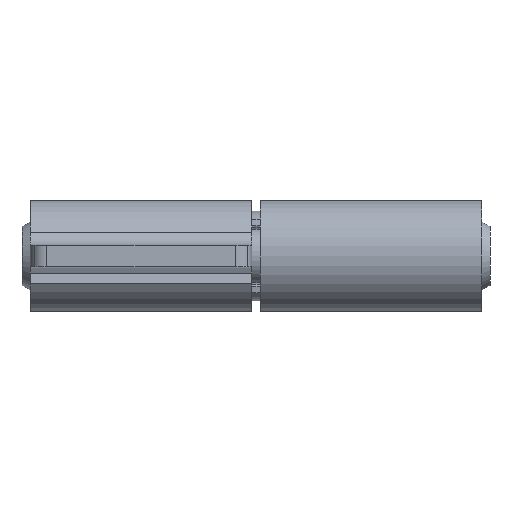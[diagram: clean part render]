
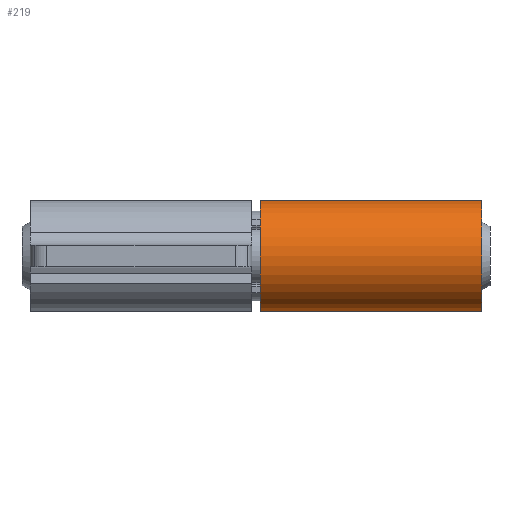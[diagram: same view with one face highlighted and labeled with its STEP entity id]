
A CAD part, front view. The second image highlights one B-rep face of the part: STEP entity #219.
In plain terms, the highlighted cylindrical face has radius 2.587 mm (diameter 5.175 mm), a partial arc.
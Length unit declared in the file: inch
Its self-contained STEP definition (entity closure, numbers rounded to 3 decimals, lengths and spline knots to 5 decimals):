
#219=ADVANCED_FACE('',(#452),#453,.T.);
#452=FACE_OUTER_BOUND('',#715,.T.);
#453=CYLINDRICAL_SURFACE('',#716,0.10187);
#715=EDGE_LOOP('',(#1238,#1239,#1240,#1241));
#716=AXIS2_PLACEMENT_3D('',#1242,#1243,#1244);
#1238=ORIENTED_EDGE('',*,*,#1719,.F.);
#1239=ORIENTED_EDGE('',*,*,#1720,.T.);
#1240=ORIENTED_EDGE('',*,*,#1721,.F.);
#1241=ORIENTED_EDGE('',*,*,#1506,.T.);
#1242=CARTESIAN_POINT('',(-1.35657,-4.5,0.));
#1243=DIRECTION('',(1.0,0.,0.));
#1244=DIRECTION('',(0.,0.,1.0));
#1506=EDGE_CURVE('',#1781,#1779,#1782,.T.);
#1719=EDGE_CURVE('',#2112,#1779,#2113,.T.);
#1720=EDGE_CURVE('',#2112,#2114,#2115,.T.);
#1721=EDGE_CURVE('',#1781,#2114,#2116,.T.);
#1779=VERTEX_POINT('',#2179);
#1781=VERTEX_POINT('',#2181);
#1782=CIRCLE('',#2182,0.10187);
#2112=VERTEX_POINT('',#2592);
#2113=LINE('',#2593,#2594);
#2114=VERTEX_POINT('',#2595);
#2115=CIRCLE('',#2596,0.10187);
#2116=LINE('',#2597,#2598);
#2179=CARTESIAN_POINT('',(-0.95057,-4.5,0.10187));
#2181=CARTESIAN_POINT('',(-0.95057,-4.5,-0.10187));
#2182=AXIS2_PLACEMENT_3D('',#2669,#2670,#2671);
#2592=CARTESIAN_POINT('',(-1.35657,-4.5,0.10187));
#2593=CARTESIAN_POINT('',(-1.35657,-4.5,0.10187));
#2594=VECTOR('',#3010,1.0);
#2595=CARTESIAN_POINT('',(-1.35657,-4.5,-0.10187));
#2596=AXIS2_PLACEMENT_3D('',#3011,#3012,#3013);
#2597=CARTESIAN_POINT('',(-1.35657,-4.5,-0.10187));
#2598=VECTOR('',#3014,1.0);
#2669=CARTESIAN_POINT('',(-0.95057,-4.5,0.));
#2670=DIRECTION('',(-1.0,0.,0.));
#2671=DIRECTION('',(0.,0.,1.0));
#3010=DIRECTION('',(1.0,0.,0.));
#3011=CARTESIAN_POINT('',(-1.35657,-4.5,0.));
#3012=DIRECTION('',(1.0,0.,0.));
#3013=DIRECTION('',(0.,0.,1.0));
#3014=DIRECTION('',(-1.0,0.,0.));
